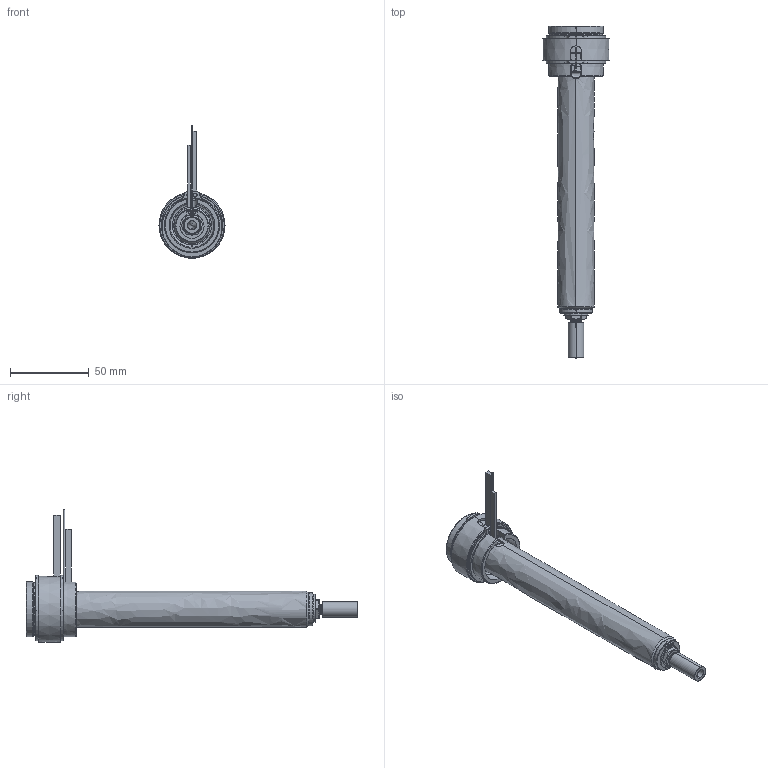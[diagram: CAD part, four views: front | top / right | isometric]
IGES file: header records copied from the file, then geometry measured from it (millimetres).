
Start section: SolidWorks IGES file using analytic representation for surfaces
Global section: file name: C:\Users\luca.EMPAD\Desktop\TEM\UGBE3504-S-A-P-5 [Ød-1.0 P-20 ØC-7.0].IGS; native system: SolidWorks 2012; preprocessor: SolidWorks 2012; author: luca; date: 120330.140632; units: millimetre
Bounding box: 42 x 211 x 84.4 mm (x, y, z)
Surface area: 36832.2 mm2 (no closed solid volume)
Topology: 0 solids, 0 shells, 190 faces, 3454 edges, 3454 vertices
Faces by surface type: revolution 123, bspline 67
